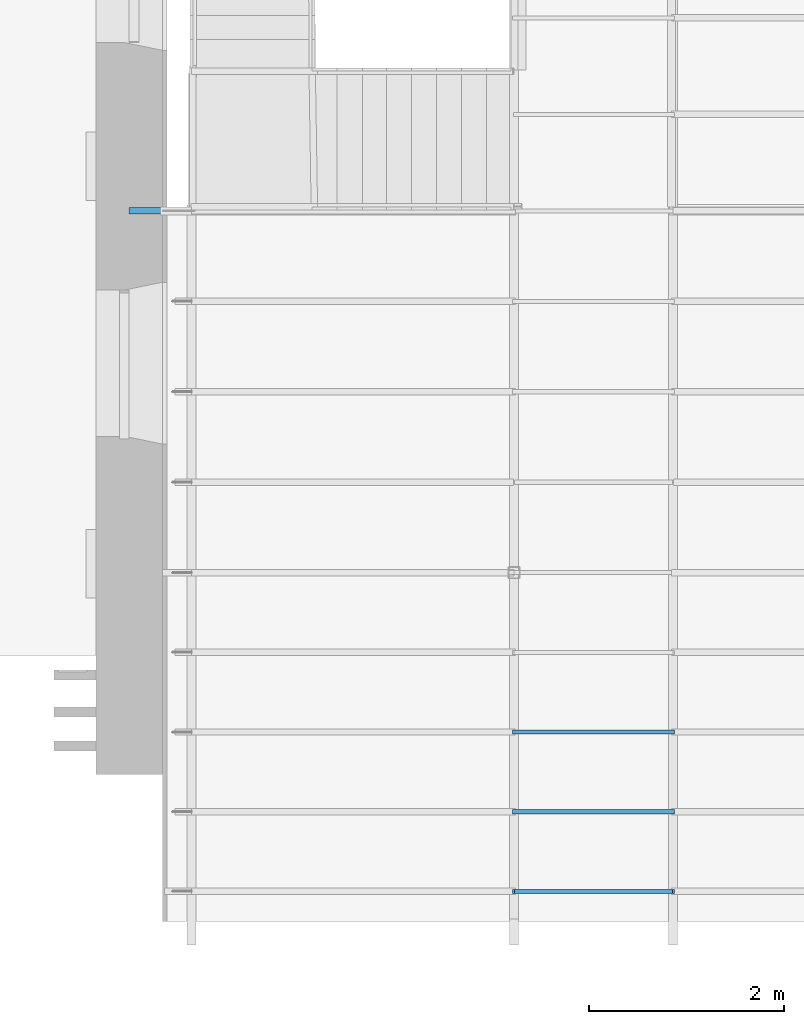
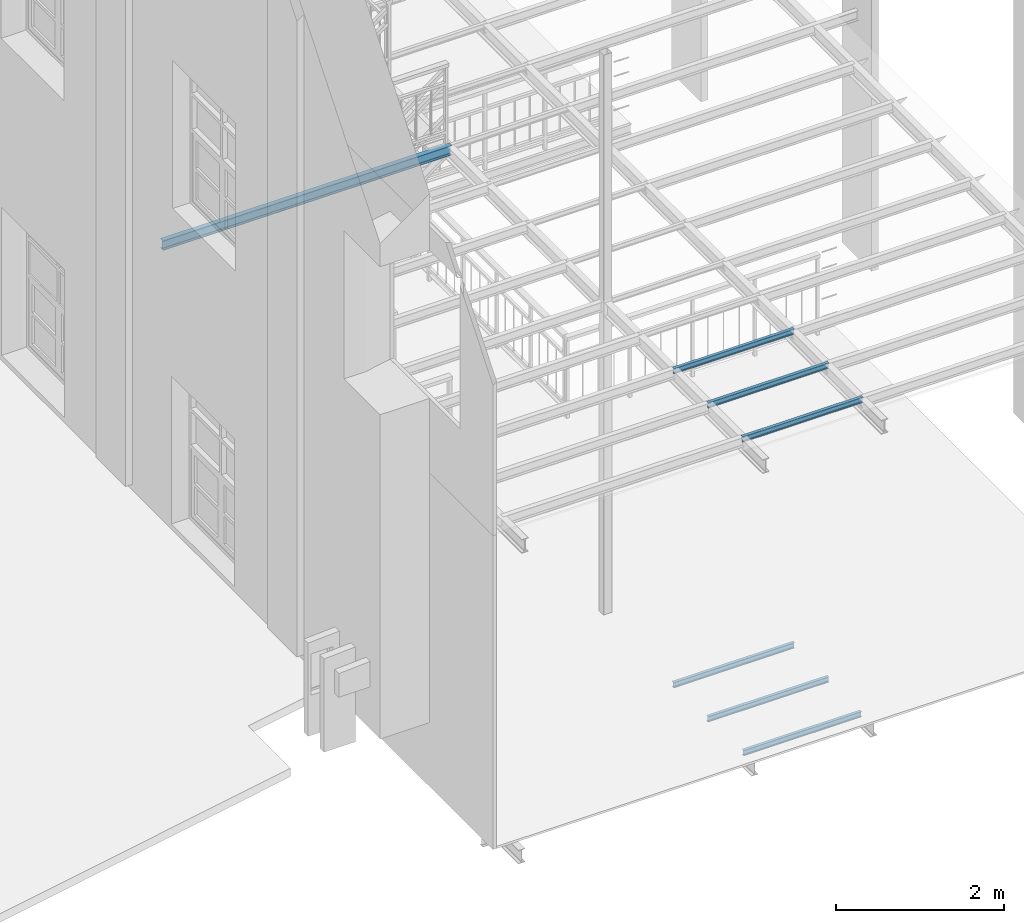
# One storey, part 4 of 33: 7 beams.
"""IFC2X3 building model written with IfcOpenShell, lengths in metres."""

from ifc_helpers import new_model, entity, si_unit, converted_unit, derived_unit, direction, frame, frame_2d, origin, place, context, subcontext, project, spatial, polyline, circle_curve, parameter, trimmed, segment, composite_curve, outline, extrude, material, type_object, element, save


model = new_model("IFC2X3")

# Units and contexts
model_context = context("Model", 3, precision=1e-05, world=origin(), true_north=direction((6.12303176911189e-17, 1.0)))
body_context = subcontext(model_context, "Body", "Model", "MODEL_VIEW")
ifc_project = project(units=[si_unit("LENGTHUNIT", "METRE"), si_unit("AREAUNIT", "SQUARE_METRE"), si_unit("VOLUMEUNIT", "CUBIC_METRE"), converted_unit("PLANEANGLEUNIT", "DEGREE", entity("IfcRatioMeasure", 0.0174532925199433), si_unit("PLANEANGLEUNIT", "RADIAN"), dimensions=[0, 0, 0, 0, 0, 0, 0]), si_unit("MASSUNIT", "GRAM", prefix="KILO"), derived_unit("MASSDENSITYUNIT", [(si_unit("MASSUNIT", "GRAM", prefix="KILO"), 1), (si_unit("LENGTHUNIT", "METRE"), -3)]), derived_unit("MOMENTOFINERTIAUNIT", [(si_unit("LENGTHUNIT", "METRE"), 4)]), si_unit("TIMEUNIT", "SECOND"), si_unit("FREQUENCYUNIT", "HERTZ"), si_unit("THERMODYNAMICTEMPERATUREUNIT", "DEGREE_CELSIUS"), derived_unit("THERMALTRANSMITTANCEUNIT", [(si_unit("MASSUNIT", "GRAM", prefix="KILO"), 1), (si_unit("THERMODYNAMICTEMPERATUREUNIT", "KELVIN"), -1), (si_unit("TIMEUNIT", "SECOND"), -3)]), derived_unit("VOLUMETRICFLOWRATEUNIT", [(si_unit("LENGTHUNIT", "METRE"), 3), (si_unit("TIMEUNIT", "SECOND"), -1)]), si_unit("ELECTRICCURRENTUNIT", "AMPERE"), si_unit("ELECTRICVOLTAGEUNIT", "VOLT"), si_unit("POWERUNIT", "WATT"), si_unit("FORCEUNIT", "NEWTON", prefix="KILO"), si_unit("ILLUMINANCEUNIT", "LUX"), si_unit("LUMINOUSFLUXUNIT", "LUMEN"), si_unit("LUMINOUSINTENSITYUNIT", "CANDELA"), derived_unit("USERDEFINED", [(si_unit("MASSUNIT", "GRAM", prefix="KILO"), -1), (si_unit("LENGTHUNIT", "METRE"), -2), (si_unit("TIMEUNIT", "SECOND"), 3), (si_unit("LUMINOUSFLUXUNIT", "LUMEN"), 1)]), derived_unit("LINEARVELOCITYUNIT", [(si_unit("LENGTHUNIT", "METRE"), 1), (si_unit("TIMEUNIT", "SECOND"), -1)]), si_unit("PRESSUREUNIT", "PASCAL"), derived_unit("USERDEFINED", [(si_unit("LENGTHUNIT", "METRE"), -2), (si_unit("MASSUNIT", "GRAM", prefix="KILO"), 1), (si_unit("TIMEUNIT", "SECOND"), -2)]), derived_unit("LINEARFORCEUNIT", [(si_unit("MASSUNIT", "GRAM", prefix="KILO"), 1), (si_unit("LENGTHUNIT", "METRE"), 1), (si_unit("TIMEUNIT", "SECOND"), -2), (si_unit("LENGTHUNIT", "METRE"), -1)]), derived_unit("PLANARFORCEUNIT", [(si_unit("MASSUNIT", "GRAM", prefix="KILO"), 1), (si_unit("LENGTHUNIT", "METRE"), 1), (si_unit("TIMEUNIT", "SECOND"), -2), (si_unit("LENGTHUNIT", "METRE"), -2)])], contexts=[model_context])

# Site, building, storey
site_placement = place(None, origin())
site = spatial("IfcSite", under=ifc_project, at=site_placement, Name="Superficie", CompositionType="ELEMENT")
building_placement = place(site_placement, origin())
building = spatial("IfcBuilding", under=site, at=building_placement, Name="Telegestiones", CompositionType="ELEMENT")
storey_placement = place(building_placement, frame((0.0, 0.0, 4.94)))
storey = spatial("IfcBuildingStorey", under=building, at=storey_placement, Name="Nivel 1_NPT", CompositionType="ELEMENT", Elevation=4.94)

# Beams
ifc_material = material(Name="Metal - Acero - 345 MPa")
beam_type_1 = type_object("IfcBeamType", Name="IPN - Secciones en I con alas cónicas:IPN 140", PredefinedType="NOTDEFINED")
beam_1_placement = place(storey_placement, frame((6.33481262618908, 1.48459406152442, 4.56)))
element("IfcBeam", 1, at=beam_1_placement, inside=storey, type_object=beam_type_1, material=ifc_material, Name="IPN - Secciones en I con alas cónicas:IPN 140", ObjectType="IPN - Secciones en I con alas cónicas:IPN 140", context=body_context, shape_type="SweptSolid", body=[
    extrude(outline(composite_curve([segment(polyline([(0.0666671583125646, -0.0330000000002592), (0.0699999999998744, -0.0330000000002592)]), True, "CONTINUOUS"), segment(polyline([(0.0699999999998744, -0.0330000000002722), (0.0700000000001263, 0.0329999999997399)]), True, "CONTINUOUS"), segment(polyline([(0.0700000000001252, 0.0329999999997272), (0.0666671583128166, 0.0329999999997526)]), True, "CONTINUOUS"), segment(trimmed(circle_curve(frame_2d((0.0666671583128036, 0.0295999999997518), x_axis=(0.0, 1.0)), 0.00340000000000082), [parameter(0.0)], [parameter(82.0303896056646)], True, "PARAMETER"), True, "CONTINUOUS"), segment(polyline([(0.0632999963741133, 0.0300714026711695), (0.0601763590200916, 0.00775970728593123)]), True, "CONTINUOUS"), segment(trimmed(circle_curve(frame_2d((0.05453141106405, 0.00854999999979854), x_axis=(0.990341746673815, -0.138647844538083)), 0.0056999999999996), [parameter(277.969610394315)], [parameter(0.0)], True, "PARAMETER"), False, "CONTINUOUS"), segment(polyline([(0.0545314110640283, 0.0028499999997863), (-0.0545314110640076, 0.00285000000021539)]), True, "CONTINUOUS"), segment(trimmed(circle_curve(frame_2d((-0.0545314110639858, 0.0085500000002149), x_axis=(0.0, -1.0)), 0.00569999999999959), [parameter(277.969610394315)], [parameter(0.0)], True, "PARAMETER"), False, "CONTINUOUS"), segment(polyline([(-0.0601763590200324, 0.00775970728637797), (-0.0632999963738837, 0.0300714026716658)]), True, "CONTINUOUS"), segment(trimmed(circle_curve(frame_2d((-0.0666671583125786, 0.0296000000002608), x_axis=(0.990341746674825, 0.138647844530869)), 0.00340000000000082), [parameter(0.0)], [parameter(82.0303896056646)], True, "PARAMETER"), True, "CONTINUOUS"), segment(polyline([(-0.0666671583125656, 0.0330000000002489), (-0.0699999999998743, 0.0330000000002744)]), True, "CONTINUOUS"), segment(polyline([(-0.0699999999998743, 0.0330000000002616), (-0.0700000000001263, -0.0329999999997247)]), True, "CONTINUOUS"), segment(polyline([(-0.0700000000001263, -0.0329999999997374), (-0.0666671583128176, -0.0329999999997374)]), True, "CONTINUOUS"), segment(trimmed(circle_curve(frame_2d((-0.0666671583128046, -0.0295999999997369), x_axis=(0.0, -1.0)), 0.00340000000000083), [parameter(0.0)], [parameter(82.0303896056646)], True, "PARAMETER"), True, "CONTINUOUS"), segment(polyline([(-0.0632999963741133, -0.0300714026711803), (-0.0601763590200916, -0.00775970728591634)]), True, "CONTINUOUS"), segment(trimmed(circle_curve(frame_2d((-0.05453141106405, -0.00854999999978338), x_axis=(-0.990341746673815, 0.138647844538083)), 0.00569999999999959), [parameter(277.969610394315)], [parameter(0.0)], True, "PARAMETER"), False, "CONTINUOUS"), segment(polyline([(-0.0545314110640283, -0.00284999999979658), (0.0545314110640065, -0.00285000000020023)]), True, "CONTINUOUS"), segment(trimmed(circle_curve(frame_2d((0.0545314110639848, -0.00855000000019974), x_axis=(0.0, 1.0)), 0.0056999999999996), [parameter(277.969610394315)], [parameter(0.0)], True, "PARAMETER"), False, "CONTINUOUS"), segment(polyline([(0.0601763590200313, -0.00775970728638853), (0.0632999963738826, -0.0300714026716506)]), True, "CONTINUOUS"), segment(trimmed(circle_curve(frame_2d((0.0666671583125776, -0.0296000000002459), x_axis=(-0.990341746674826, -0.138647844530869)), 0.00340000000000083), [parameter(0.0)], [parameter(82.0303896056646)], True, "PARAMETER"), True, "CONTINUOUS")], self_intersect=False)), frame((-0.641000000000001, 0.0, -0.100000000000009), z_axis=(1.0, 0.0, 0.0), x_axis=(0.0, 0.0, -1.0)), (0.0, 0.0, 1.0), 3.966),
])
beam_type_2 = type_object("IfcBeamType", Name="IPN - Secciones en I con alas cónicas:IPN 80", PredefinedType="NOTDEFINED")
beam_2_placement = place(storey_placement, frame((9.64481262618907, -5.49739277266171, 0.0)))
element("IfcBeam", 2, at=beam_2_placement, inside=storey, type_object=beam_type_2, material=ifc_material, Name="IPN - Secciones en I con alas cónicas:IPN 80", ObjectType="IPN - Secciones en I con alas cónicas:IPN 80", context=body_context, shape_type="SweptSolid", body=[
    extrude(outline(composite_curve([segment(polyline([(0.0375704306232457, -0.0210000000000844), (0.0399999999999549, -0.0210000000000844)]), True, "CONTINUOUS"), segment(polyline([(0.0399999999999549, -0.0210000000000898), (0.0400000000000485, 0.0209999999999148)]), True, "CONTINUOUS"), segment(polyline([(0.0400000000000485, 0.0209999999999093), (0.0375704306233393, 0.0209999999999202)]), True, "CONTINUOUS"), segment(trimmed(circle_curve(frame_2d((0.0375704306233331, 0.0186999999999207), x_axis=(0.0, 1.0)), 0.00229999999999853), [parameter(0.0)], [parameter(82.0303896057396)], True, "PARAMETER"), True, "CONTINUOUS"), segment(polyline([(0.0352926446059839, 0.019018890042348), (0.0333732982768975, 0.0053092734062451)]), True, "CONTINUOUS"), segment(trimmed(circle_curve(frame_2d((0.0295109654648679, 0.0058499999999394), x_axis=(0.99034174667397, -0.138647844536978)), 0.00390000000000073), [parameter(277.96961039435)], [parameter(0.0)], True, "PARAMETER"), False, "CONTINUOUS"), segment(polyline([(0.0295109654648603, 0.00194999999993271), (-0.0295109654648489, 0.00195000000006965)]), True, "CONTINUOUS"), segment(trimmed(circle_curve(frame_2d((-0.0295109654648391, 0.00585000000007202), x_axis=(0.0, -1.0)), 0.00390000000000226), [parameter(277.969610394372)], [parameter(0.0)], True, "PARAMETER"), False, "CONTINUOUS"), segment(polyline([(-0.0333732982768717, 0.00530927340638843), (-0.035292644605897, 0.0190188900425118)]), True, "CONTINUOUS"), segment(trimmed(circle_curve(frame_2d((-0.037570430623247, 0.0187000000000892), x_axis=(0.990341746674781, 0.138647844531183)), 0.00229999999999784), [parameter(0.0)], [parameter(82.0303896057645)], True, "PARAMETER"), True, "CONTINUOUS"), segment(polyline([(-0.037570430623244, 0.0210000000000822), (-0.0399999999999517, 0.021000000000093)]), True, "CONTINUOUS"), segment(polyline([(-0.0399999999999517, 0.0210000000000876), (-0.0400000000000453, -0.0209999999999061)]), True, "CONTINUOUS"), segment(polyline([(-0.0400000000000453, -0.0209999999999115), (-0.0375704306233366, -0.0209999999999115)]), True, "CONTINUOUS"), segment(trimmed(circle_curve(frame_2d((-0.0375704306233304, -0.0186999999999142), x_axis=(0.0, -1.0)), 0.00229999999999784), [parameter(0.0)], [parameter(82.0303896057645)], True, "PARAMETER"), True, "CONTINUOUS"), segment(polyline([(-0.0352926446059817, -0.0190188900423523), (-0.0333732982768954, -0.00530927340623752)]), True, "CONTINUOUS"), segment(trimmed(circle_curve(frame_2d((-0.0295109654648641, -0.0058499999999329), x_axis=(-0.990341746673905, 0.138647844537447)), 0.00390000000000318), [parameter(277.969610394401)], [parameter(0.0)], True, "PARAMETER"), False, "CONTINUOUS"), segment(polyline([(-0.0295109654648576, -0.00194999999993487), (0.0295109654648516, -0.00195000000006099)]), True, "CONTINUOUS"), segment(trimmed(circle_curve(frame_2d((0.0295109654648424, -0.00585000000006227), x_axis=(0.0, 1.0)), 0.00390000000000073), [parameter(277.96961039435)], [parameter(0.0)], True, "PARAMETER"), False, "CONTINUOUS"), segment(polyline([(0.0333732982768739, -0.0053092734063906), (0.0352926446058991, -0.0190188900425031)]), True, "CONTINUOUS"), segment(trimmed(circle_curve(frame_2d((0.0375704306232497, -0.0187000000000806), x_axis=(-0.990341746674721, -0.138647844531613)), 0.00229999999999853), [parameter(0.0)], [parameter(82.0303896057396)], True, "PARAMETER"), True, "CONTINUOUS")], self_intersect=False)), frame((0.0029999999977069, 0.0, -0.0700000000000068), z_axis=(1.0, 0.0, 0.0), x_axis=(0.0, 0.0, -1.0)), (0.0, 0.0, 1.0), 1.621),
])
beam_3_placement = place(storey_placement, frame((9.64481262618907, -3.86189277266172, 0.0)))
element("IfcBeam", 3, at=beam_3_placement, inside=storey, type_object=beam_type_2, material=ifc_material, Name="IPN - Secciones en I con alas cónicas:IPN 80", ObjectType="IPN - Secciones en I con alas cónicas:IPN 80", context=body_context, shape_type="SweptSolid", body=[
    extrude(outline(composite_curve([segment(polyline([(0.0375704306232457, -0.021000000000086), (0.0399999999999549, -0.021000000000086)]), True, "CONTINUOUS"), segment(polyline([(0.0399999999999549, -0.0210000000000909), (0.0400000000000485, 0.0209999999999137)]), True, "CONTINUOUS"), segment(polyline([(0.0400000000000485, 0.0209999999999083), (0.0375704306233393, 0.0209999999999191)]), True, "CONTINUOUS"), segment(trimmed(circle_curve(frame_2d((0.0375704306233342, 0.0186999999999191), x_axis=(0.0, 1.0)), 0.00229999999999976), [parameter(0.0)], [parameter(82.0303896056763)], True, "PARAMETER"), True, "CONTINUOUS"), segment(polyline([(0.0352926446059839, 0.0190188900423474), (0.0333732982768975, 0.00530927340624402)]), True, "CONTINUOUS"), segment(trimmed(circle_curve(frame_2d((0.0295109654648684, 0.00584999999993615), x_axis=(0.990341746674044, -0.138647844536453)), 0.00389999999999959), [parameter(277.969610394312)], [parameter(0.0)], True, "PARAMETER"), False, "CONTINUOUS"), segment(polyline([(0.0295109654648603, 0.00194999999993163), (-0.0295109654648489, 0.00195000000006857)]), True, "CONTINUOUS"), segment(trimmed(circle_curve(frame_2d((-0.0295109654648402, 0.00585000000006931), x_axis=(0.0, -1.0)), 0.00390000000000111), [parameter(277.969610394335)], [parameter(0.0)], True, "PARAMETER"), False, "CONTINUOUS"), segment(polyline([(-0.0333732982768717, 0.00530927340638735), (-0.035292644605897, 0.0190188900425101)]), True, "CONTINUOUS"), segment(trimmed(circle_curve(frame_2d((-0.0375704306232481, 0.0187000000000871), x_axis=(0.990341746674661, 0.138647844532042)), 0.00229999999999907), [parameter(0.0)], [parameter(82.0303896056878)], True, "PARAMETER"), True, "CONTINUOUS"), segment(polyline([(-0.037570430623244, 0.0210000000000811), (-0.0399999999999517, 0.0210000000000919)]), True, "CONTINUOUS"), segment(polyline([(-0.0399999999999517, 0.021000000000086), (-0.0400000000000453, -0.0209999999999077)]), True, "CONTINUOUS"), segment(polyline([(-0.0400000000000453, -0.0209999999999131), (-0.0375704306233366, -0.0209999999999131)]), True, "CONTINUOUS"), segment(trimmed(circle_curve(frame_2d((-0.0375704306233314, -0.0186999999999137), x_axis=(0.0, -1.0)), 0.00229999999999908), [parameter(0.0)], [parameter(82.0303896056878)], True, "PARAMETER"), True, "CONTINUOUS"), segment(polyline([(-0.0352926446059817, -0.0190188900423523), (-0.0333732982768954, -0.00530927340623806)]), True, "CONTINUOUS"), segment(trimmed(circle_curve(frame_2d((-0.0295109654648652, -0.0058499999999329), x_axis=(-0.990341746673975, 0.13864784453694)), 0.00390000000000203), [parameter(277.969610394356)], [parameter(0.0)], True, "PARAMETER"), False, "CONTINUOUS"), segment(polyline([(-0.0295109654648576, -0.0019499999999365), (0.0295109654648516, -0.00195000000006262)]), True, "CONTINUOUS"), segment(trimmed(circle_curve(frame_2d((0.0295109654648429, -0.00585000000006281), x_axis=(0.0, 1.0)), 0.00389999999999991), [parameter(277.96961039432)], [parameter(0.0)], True, "PARAMETER"), False, "CONTINUOUS"), segment(polyline([(0.0333732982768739, -0.00530927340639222), (0.0352926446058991, -0.0190188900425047)]), True, "CONTINUOUS"), segment(trimmed(circle_curve(frame_2d((0.0375704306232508, -0.0187000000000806), x_axis=(-0.990341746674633, -0.138647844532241)), 0.00229999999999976), [parameter(0.0)], [parameter(82.0303896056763)], True, "PARAMETER"), True, "CONTINUOUS")], self_intersect=False)), frame((-0.0149999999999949, 0.0, -0.0700000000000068), z_axis=(1.0, 0.0, 0.0), x_axis=(0.0, 0.0, -1.0)), (0.0, 0.0, 1.0), 1.66),
])
beam_4_placement = place(storey_placement, frame((9.64481262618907, -4.67964277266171, 0.0)))
element("IfcBeam", 4, at=beam_4_placement, inside=storey, type_object=beam_type_2, material=ifc_material, Name="IPN - Secciones en I con alas cónicas:IPN 80", ObjectType="IPN - Secciones en I con alas cónicas:IPN 80", context=body_context, shape_type="SweptSolid", body=[
    extrude(outline(composite_curve([segment(polyline([(0.0375704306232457, -0.0210000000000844), (0.0399999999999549, -0.0210000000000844)]), True, "CONTINUOUS"), segment(polyline([(0.0399999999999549, -0.0210000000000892), (0.0400000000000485, 0.0209999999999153)]), True, "CONTINUOUS"), segment(polyline([(0.0400000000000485, 0.0209999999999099), (0.0375704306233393, 0.0209999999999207)]), True, "CONTINUOUS"), segment(trimmed(circle_curve(frame_2d((0.0375704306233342, 0.0186999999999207), x_axis=(0.0, 1.0)), 0.00229999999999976), [parameter(0.0)], [parameter(82.0303896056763)], True, "PARAMETER"), True, "CONTINUOUS"), segment(polyline([(0.0352926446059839, 0.019018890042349), (0.0333732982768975, 0.00530927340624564)]), True, "CONTINUOUS"), segment(trimmed(circle_curve(frame_2d((0.0295109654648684, 0.00584999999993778), x_axis=(0.990341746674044, -0.138647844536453)), 0.00389999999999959), [parameter(277.969610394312)], [parameter(0.0)], True, "PARAMETER"), False, "CONTINUOUS"), segment(polyline([(0.0295109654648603, 0.00194999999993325), (-0.0295109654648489, 0.0019500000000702)]), True, "CONTINUOUS"), segment(trimmed(circle_curve(frame_2d((-0.0295109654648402, 0.00585000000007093), x_axis=(0.0, -1.0)), 0.00390000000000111), [parameter(277.969610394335)], [parameter(0.0)], True, "PARAMETER"), False, "CONTINUOUS"), segment(polyline([(-0.0333732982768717, 0.00530927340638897), (-0.035292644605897, 0.0190188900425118)]), True, "CONTINUOUS"), segment(trimmed(circle_curve(frame_2d((-0.0375704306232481, 0.0187000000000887), x_axis=(0.990341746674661, 0.138647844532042)), 0.00229999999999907), [parameter(0.0)], [parameter(82.0303896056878)], True, "PARAMETER"), True, "CONTINUOUS"), segment(polyline([(-0.037570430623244, 0.0210000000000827), (-0.0399999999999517, 0.0210000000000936)]), True, "CONTINUOUS"), segment(polyline([(-0.0399999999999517, 0.0210000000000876), (-0.0400000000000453, -0.0209999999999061)]), True, "CONTINUOUS"), segment(polyline([(-0.0400000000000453, -0.0209999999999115), (-0.0375704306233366, -0.0209999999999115)]), True, "CONTINUOUS"), segment(trimmed(circle_curve(frame_2d((-0.0375704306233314, -0.018699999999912), x_axis=(0.0, -1.0)), 0.00229999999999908), [parameter(0.0)], [parameter(82.0303896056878)], True, "PARAMETER"), True, "CONTINUOUS"), segment(polyline([(-0.0352926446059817, -0.0190188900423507), (-0.0333732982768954, -0.00530927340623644)]), True, "CONTINUOUS"), segment(trimmed(circle_curve(frame_2d((-0.0295109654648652, -0.00584999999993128), x_axis=(-0.990341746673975, 0.13864784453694)), 0.00390000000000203), [parameter(277.969610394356)], [parameter(0.0)], True, "PARAMETER"), False, "CONTINUOUS"), segment(polyline([(-0.0295109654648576, -0.00194999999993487), (0.0295109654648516, -0.00195000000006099)]), True, "CONTINUOUS"), segment(trimmed(circle_curve(frame_2d((0.0295109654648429, -0.00585000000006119), x_axis=(0.0, 1.0)), 0.00389999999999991), [parameter(277.96961039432)], [parameter(0.0)], True, "PARAMETER"), False, "CONTINUOUS"), segment(polyline([(0.0333732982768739, -0.0053092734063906), (0.0352926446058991, -0.0190188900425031)]), True, "CONTINUOUS"), segment(trimmed(circle_curve(frame_2d((0.0375704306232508, -0.0187000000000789), x_axis=(-0.990341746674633, -0.138647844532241)), 0.00229999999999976), [parameter(0.0)], [parameter(82.0303896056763)], True, "PARAMETER"), True, "CONTINUOUS")], self_intersect=False)), frame((-0.0149999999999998, 0.0, -0.0700000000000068), z_axis=(1.0, 0.0, 0.0), x_axis=(0.0, 0.0, -1.0)), (0.0, 0.0, 1.0), 1.66),
])
beam_5_placement = place(storey_placement, frame((9.64481262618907, -5.49739277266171, 4.56)))
element("IfcBeam", 5, at=beam_5_placement, inside=storey, type_object=beam_type_2, material=ifc_material, Name="IPN - Secciones en I con alas cónicas:IPN 80", ObjectType="IPN - Secciones en I con alas cónicas:IPN 80", context=body_context, shape_type="SweptSolid", body=[
    extrude(outline(composite_curve([segment(polyline([(0.0375704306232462, -0.0210000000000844), (0.0399999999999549, -0.0210000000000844)]), True, "CONTINUOUS"), segment(polyline([(0.0399999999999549, -0.0210000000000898), (0.0400000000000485, 0.0209999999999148)]), True, "CONTINUOUS"), segment(polyline([(0.0400000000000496, 0.0209999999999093), (0.0375704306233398, 0.0209999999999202)]), True, "CONTINUOUS"), segment(trimmed(circle_curve(frame_2d((0.0375704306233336, 0.0186999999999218), x_axis=(0.0, 1.0)), 0.00229999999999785), [parameter(0.0)], [parameter(82.0303896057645)], True, "PARAMETER"), True, "CONTINUOUS"), segment(polyline([(0.035292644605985, 0.019018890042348), (0.0333732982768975, 0.0053092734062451)]), True, "CONTINUOUS"), segment(trimmed(circle_curve(frame_2d((0.0295109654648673, 0.00584999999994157), x_axis=(0.990341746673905, -0.138647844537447)), 0.00390000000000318), [parameter(277.969610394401)], [parameter(0.0)], True, "PARAMETER"), False, "CONTINUOUS"), segment(polyline([(0.0295109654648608, 0.00194999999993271), (-0.0295109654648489, 0.00195000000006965)]), True, "CONTINUOUS"), segment(trimmed(circle_curve(frame_2d((-0.0295109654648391, 0.00585000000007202), x_axis=(0.0, -1.0)), 0.00390000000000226), [parameter(277.969610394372)], [parameter(0.0)], True, "PARAMETER"), False, "CONTINUOUS"), segment(polyline([(-0.0333732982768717, 0.00530927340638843), (-0.035292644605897, 0.0190188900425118)]), True, "CONTINUOUS"), segment(trimmed(circle_curve(frame_2d((-0.037570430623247, 0.0187000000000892), x_axis=(0.990341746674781, 0.138647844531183)), 0.00229999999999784), [parameter(0.0)], [parameter(82.0303896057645)], True, "PARAMETER"), True, "CONTINUOUS"), segment(polyline([(-0.037570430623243, 0.0210000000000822), (-0.0399999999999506, 0.021000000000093)]), True, "CONTINUOUS"), segment(polyline([(-0.0399999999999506, 0.0210000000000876), (-0.0400000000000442, -0.0209999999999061)]), True, "CONTINUOUS"), segment(polyline([(-0.0400000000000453, -0.0209999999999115), (-0.0375704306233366, -0.0209999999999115)]), True, "CONTINUOUS"), segment(trimmed(circle_curve(frame_2d((-0.0375704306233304, -0.0186999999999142), x_axis=(0.0, -1.0)), 0.00229999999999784), [parameter(0.0)], [parameter(82.0303896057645)], True, "PARAMETER"), True, "CONTINUOUS"), segment(polyline([(-0.0352926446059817, -0.0190188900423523), (-0.0333732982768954, -0.00530927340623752)]), True, "CONTINUOUS"), segment(trimmed(circle_curve(frame_2d((-0.0295109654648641, -0.0058499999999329), x_axis=(-0.990341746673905, 0.138647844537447)), 0.00390000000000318), [parameter(277.969610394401)], [parameter(0.0)], True, "PARAMETER"), False, "CONTINUOUS"), segment(polyline([(-0.0295109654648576, -0.00194999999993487), (0.0295109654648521, -0.00195000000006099)]), True, "CONTINUOUS"), segment(trimmed(circle_curve(frame_2d((0.0295109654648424, -0.00585000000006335), x_axis=(0.0, 1.0)), 0.00390000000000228), [parameter(277.969610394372)], [parameter(0.0)], True, "PARAMETER"), False, "CONTINUOUS"), segment(polyline([(0.0333732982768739, -0.0053092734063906), (0.0352926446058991, -0.0190188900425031)]), True, "CONTINUOUS"), segment(trimmed(circle_curve(frame_2d((0.0375704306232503, -0.0187000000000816), x_axis=(-0.990341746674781, -0.138647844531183)), 0.00229999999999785), [parameter(0.0)], [parameter(82.0303896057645)], True, "PARAMETER"), True, "CONTINUOUS")], self_intersect=False)), frame((-0.0149999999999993, 0.0, -0.0700000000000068), z_axis=(1.0, 0.0, 0.0), x_axis=(0.0, 0.0, -1.0)), (0.0, 0.0, 1.0), 1.66),
])
beam_6_placement = place(storey_placement, frame((9.64481262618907, -3.86189277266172, 4.56)))
element("IfcBeam", 6, at=beam_6_placement, inside=storey, type_object=beam_type_2, material=ifc_material, Name="IPN - Secciones en I con alas cónicas:IPN 80", ObjectType="IPN - Secciones en I con alas cónicas:IPN 80", context=body_context, shape_type="SweptSolid", body=[
    extrude(outline(composite_curve([segment(polyline([(0.0375704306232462, -0.021000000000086), (0.0399999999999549, -0.021000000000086)]), True, "CONTINUOUS"), segment(polyline([(0.0399999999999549, -0.0210000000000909), (0.0400000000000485, 0.0209999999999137)]), True, "CONTINUOUS"), segment(polyline([(0.0400000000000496, 0.0209999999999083), (0.0375704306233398, 0.0209999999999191)]), True, "CONTINUOUS"), segment(trimmed(circle_curve(frame_2d((0.0375704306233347, 0.0186999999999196), x_axis=(0.0, 1.0)), 0.00229999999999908), [parameter(0.0)], [parameter(82.0303896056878)], True, "PARAMETER"), True, "CONTINUOUS"), segment(polyline([(0.035292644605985, 0.0190188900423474), (0.0333732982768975, 0.00530927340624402)]), True, "CONTINUOUS"), segment(trimmed(circle_curve(frame_2d((0.0295109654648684, 0.00584999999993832), x_axis=(0.990341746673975, -0.13864784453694)), 0.00390000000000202), [parameter(277.969610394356)], [parameter(0.0)], True, "PARAMETER"), False, "CONTINUOUS"), segment(polyline([(0.0295109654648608, 0.00194999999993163), (-0.0295109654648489, 0.00195000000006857)]), True, "CONTINUOUS"), segment(trimmed(circle_curve(frame_2d((-0.0295109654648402, 0.00585000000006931), x_axis=(0.0, -1.0)), 0.00390000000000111), [parameter(277.969610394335)], [parameter(0.0)], True, "PARAMETER"), False, "CONTINUOUS"), segment(polyline([(-0.0333732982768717, 0.00530927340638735), (-0.035292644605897, 0.0190188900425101)]), True, "CONTINUOUS"), segment(trimmed(circle_curve(frame_2d((-0.0375704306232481, 0.0187000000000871), x_axis=(0.990341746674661, 0.138647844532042)), 0.00229999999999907), [parameter(0.0)], [parameter(82.0303896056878)], True, "PARAMETER"), True, "CONTINUOUS"), segment(polyline([(-0.037570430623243, 0.0210000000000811), (-0.0399999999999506, 0.0210000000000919)]), True, "CONTINUOUS"), segment(polyline([(-0.0399999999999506, 0.021000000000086), (-0.0400000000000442, -0.0209999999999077)]), True, "CONTINUOUS"), segment(polyline([(-0.0400000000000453, -0.0209999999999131), (-0.0375704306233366, -0.0209999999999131)]), True, "CONTINUOUS"), segment(trimmed(circle_curve(frame_2d((-0.0375704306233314, -0.0186999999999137), x_axis=(0.0, -1.0)), 0.00229999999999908), [parameter(0.0)], [parameter(82.0303896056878)], True, "PARAMETER"), True, "CONTINUOUS"), segment(polyline([(-0.0352926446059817, -0.0190188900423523), (-0.0333732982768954, -0.00530927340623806)]), True, "CONTINUOUS"), segment(trimmed(circle_curve(frame_2d((-0.0295109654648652, -0.0058499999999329), x_axis=(-0.990341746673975, 0.13864784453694)), 0.00390000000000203), [parameter(277.969610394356)], [parameter(0.0)], True, "PARAMETER"), False, "CONTINUOUS"), segment(polyline([(-0.0295109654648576, -0.0019499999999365), (0.0295109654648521, -0.00195000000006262)]), True, "CONTINUOUS"), segment(trimmed(circle_curve(frame_2d((0.0295109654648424, -0.0058500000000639), x_axis=(0.0, 1.0)), 0.00390000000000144), [parameter(277.969610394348)], [parameter(0.0)], True, "PARAMETER"), False, "CONTINUOUS"), segment(polyline([(0.0333732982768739, -0.00530927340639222), (0.0352926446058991, -0.0190188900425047)]), True, "CONTINUOUS"), segment(trimmed(circle_curve(frame_2d((0.0375704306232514, -0.0187000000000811), x_axis=(-0.990341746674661, -0.138647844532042)), 0.00229999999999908), [parameter(0.0)], [parameter(82.0303896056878)], True, "PARAMETER"), True, "CONTINUOUS")], self_intersect=False)), frame((-0.0149999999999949, 0.0, -0.0700000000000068), z_axis=(1.0, 0.0, 0.0), x_axis=(0.0, 0.0, -1.0)), (0.0, 0.0, 1.0), 1.66),
])
beam_7_placement = place(storey_placement, frame((9.64481262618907, -4.67964277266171, 4.56)))
element("IfcBeam", 7, at=beam_7_placement, inside=storey, type_object=beam_type_2, material=ifc_material, Name="IPN - Secciones en I con alas cónicas:IPN 80", ObjectType="IPN - Secciones en I con alas cónicas:IPN 80", context=body_context, shape_type="SweptSolid", body=[
    extrude(outline(composite_curve([segment(polyline([(0.0375704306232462, -0.0210000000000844), (0.0399999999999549, -0.0210000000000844)]), True, "CONTINUOUS"), segment(polyline([(0.0399999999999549, -0.0210000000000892), (0.0400000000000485, 0.0209999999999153)]), True, "CONTINUOUS"), segment(polyline([(0.0400000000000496, 0.0209999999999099), (0.0375704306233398, 0.0209999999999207)]), True, "CONTINUOUS"), segment(trimmed(circle_curve(frame_2d((0.0375704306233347, 0.0186999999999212), x_axis=(0.0, 1.0)), 0.00229999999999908), [parameter(0.0)], [parameter(82.0303896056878)], True, "PARAMETER"), True, "CONTINUOUS"), segment(polyline([(0.035292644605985, 0.019018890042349), (0.0333732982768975, 0.00530927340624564)]), True, "CONTINUOUS"), segment(trimmed(circle_curve(frame_2d((0.0295109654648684, 0.00584999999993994), x_axis=(0.990341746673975, -0.13864784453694)), 0.00390000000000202), [parameter(277.969610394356)], [parameter(0.0)], True, "PARAMETER"), False, "CONTINUOUS"), segment(polyline([(0.0295109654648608, 0.00194999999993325), (-0.0295109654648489, 0.0019500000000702)]), True, "CONTINUOUS"), segment(trimmed(circle_curve(frame_2d((-0.0295109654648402, 0.00585000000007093), x_axis=(0.0, -1.0)), 0.00390000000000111), [parameter(277.969610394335)], [parameter(0.0)], True, "PARAMETER"), False, "CONTINUOUS"), segment(polyline([(-0.0333732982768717, 0.00530927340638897), (-0.035292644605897, 0.0190188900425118)]), True, "CONTINUOUS"), segment(trimmed(circle_curve(frame_2d((-0.0375704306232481, 0.0187000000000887), x_axis=(0.990341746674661, 0.138647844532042)), 0.00229999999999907), [parameter(0.0)], [parameter(82.0303896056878)], True, "PARAMETER"), True, "CONTINUOUS"), segment(polyline([(-0.037570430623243, 0.0210000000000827), (-0.0399999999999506, 0.0210000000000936)]), True, "CONTINUOUS"), segment(polyline([(-0.0399999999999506, 0.0210000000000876), (-0.0400000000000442, -0.0209999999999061)]), True, "CONTINUOUS"), segment(polyline([(-0.0400000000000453, -0.0209999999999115), (-0.0375704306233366, -0.0209999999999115)]), True, "CONTINUOUS"), segment(trimmed(circle_curve(frame_2d((-0.0375704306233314, -0.018699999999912), x_axis=(0.0, -1.0)), 0.00229999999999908), [parameter(0.0)], [parameter(82.0303896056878)], True, "PARAMETER"), True, "CONTINUOUS"), segment(polyline([(-0.0352926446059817, -0.0190188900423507), (-0.0333732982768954, -0.00530927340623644)]), True, "CONTINUOUS"), segment(trimmed(circle_curve(frame_2d((-0.0295109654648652, -0.00584999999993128), x_axis=(-0.990341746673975, 0.13864784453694)), 0.00390000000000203), [parameter(277.969610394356)], [parameter(0.0)], True, "PARAMETER"), False, "CONTINUOUS"), segment(polyline([(-0.0295109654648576, -0.00194999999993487), (0.0295109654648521, -0.00195000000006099)]), True, "CONTINUOUS"), segment(trimmed(circle_curve(frame_2d((0.0295109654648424, -0.00585000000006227), x_axis=(0.0, 1.0)), 0.00390000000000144), [parameter(277.969610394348)], [parameter(0.0)], True, "PARAMETER"), False, "CONTINUOUS"), segment(polyline([(0.0333732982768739, -0.0053092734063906), (0.0352926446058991, -0.0190188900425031)]), True, "CONTINUOUS"), segment(trimmed(circle_curve(frame_2d((0.0375704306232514, -0.0187000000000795), x_axis=(-0.990341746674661, -0.138647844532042)), 0.00229999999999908), [parameter(0.0)], [parameter(82.0303896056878)], True, "PARAMETER"), True, "CONTINUOUS")], self_intersect=False)), frame((-0.0149999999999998, 0.0, -0.0700000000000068), z_axis=(1.0, 0.0, 0.0), x_axis=(0.0, 0.0, -1.0)), (0.0, 0.0, 1.0), 1.66),
])

save(model, "model.ifc")
